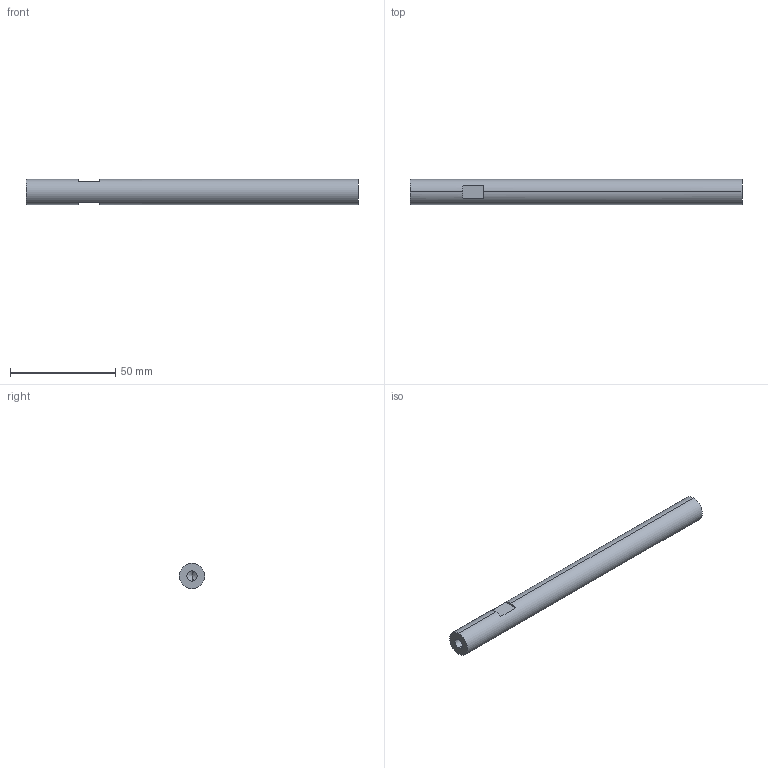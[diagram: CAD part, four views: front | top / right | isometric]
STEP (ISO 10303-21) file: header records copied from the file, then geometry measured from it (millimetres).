
FILE_DESCRIPTION (( 'STEP AP214' ), '1' );
FILE_NAME ('GZ21.18_V1导向轮组件支撑柱.STEP', '2021-02-27T13:57:00', ( 'hp' ), ( '' ), 'SwSTEP 2.0', 'SolidWorks 2017', '' );
FILE_SCHEMA (( 'AUTOMOTIVE_DESIGN' ));
Length unit declared in the file: millimetre
Products named in the file (1): GZ21.18_V1导向轮组件支撑柱
Bounding box: 157.75 x 12 x 12 mm (x, y, z)
Volume: 17086.8 mm3; surface area: 6714.9 mm2
Topology: 1 solids, 1 shells, 18 faces, 44 edges, 26 vertices
Faces by surface type: plane 8, cylinder 6, cone 4
Entity records: 586 total; most frequent: DIRECTION 98, CARTESIAN_POINT 85, ORIENTED_EDGE 80, EDGE_CURVE 40, AXIS2_PLACEMENT_3D 39, VERTEX_POINT 26, CIRCLE 20, VECTOR 20
